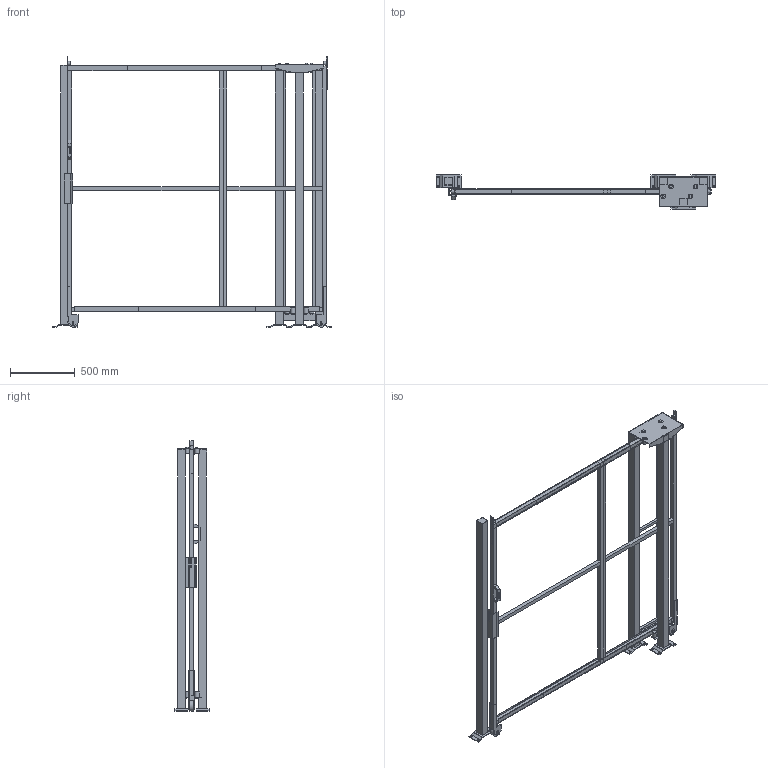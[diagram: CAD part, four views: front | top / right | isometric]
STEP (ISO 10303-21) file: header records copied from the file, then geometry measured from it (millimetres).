
FILE_DESCRIPTION(/* description */ (''),/* implementation_level */ '2;1');
FILE_NAME(/* name */ 'C:\SafeGuarding\ELABORATI\KLADKA_2025-03-18-13-35-04.stp',/* time_stamp */ '2025-03-18T13:35:07+01:00',/* author */ ('admin'),/* organization */ (''),/* preprocessor_version */ 'ST-DEVELOPER v18.1',/* originating_system */ 'AutoCAD Mechanical',/* authorisation */ '');
FILE_SCHEMA (('AUTOMOTIVE_DESIGN { 1 0 10303 214 3 1 1 }'));
Length unit declared in the file: millimetre
Products named in the file (5): Product; R_VFPA.REPE30.08001900; R_VFPA.REPE30.12001900; R_VFPA.REPE20.02501900; P_VFMA.V260SDU.2020
Assembly tree (7 placements, depth 2):
  Product
    R_VFPA.REPE30.08001900
    R_VFPA.REPE30.12001900
    R_VFPA.REPE20.02501900
    P_VFMA.V260SDU.2020  x4
Bounding box: 2162.02 x 264.1 x 2090.02 mm (x, y, z)
Volume: 46120054.2 mm3; surface area: 6280003.9 mm2
Topology: 61 solids, 72 shells, 555 faces, 1693 edges, 1688 vertices
Faces by surface type: plane 503, cylinder 50, sphere 2
Full cylindrical faces by diameter (mm): 9 x4, 11 x16, 13 x4, 30 x6, 36 x8, 80 x2
Entity records: 15913 total; most frequent: CARTESIAN_POINT 3398, DIRECTION 2417, ORIENTED_EDGE 2202, LINE 1175, VECTOR 1175, EDGE_CURVE 1150, VERTEX_POINT 806, AXIS2_PLACEMENT_3D 621
